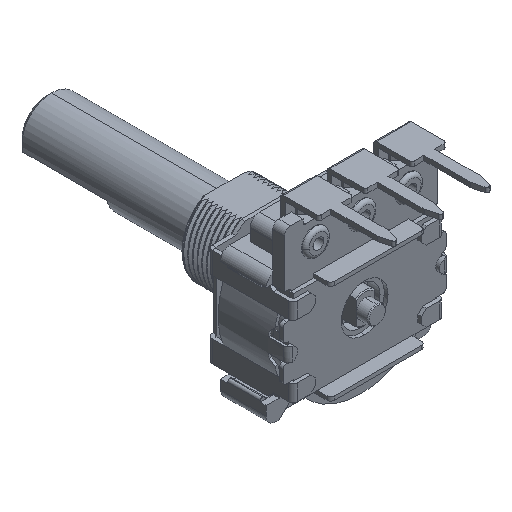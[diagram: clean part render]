
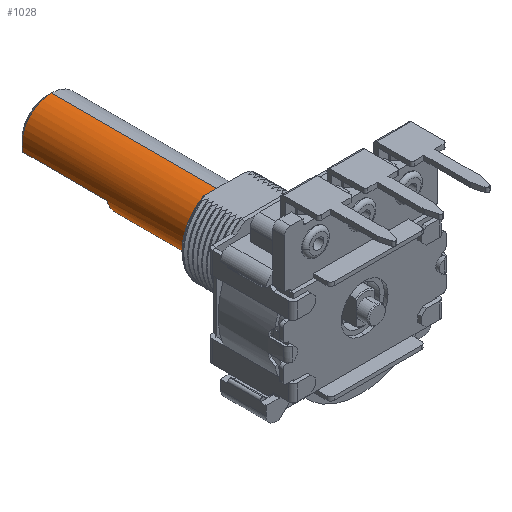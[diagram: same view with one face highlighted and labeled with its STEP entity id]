
A CAD part, isometric view. The second image highlights one B-rep face of the part: STEP entity #1028.
In plain terms, the highlighted cylindrical face has radius 3.175 mm (diameter 6.35 mm), a partial arc.
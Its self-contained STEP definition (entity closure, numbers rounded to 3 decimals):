
#1028 = ADVANCED_FACE ( 'NONE', ( #29209 ), #6277, .T. ) ;
#1615 = CARTESIAN_POINT ( 'NONE',  ( -3.076, 25.974, -0.787 ) ) ;
#2422 = CIRCLE ( 'NONE', #6647, 3.175 ) ;
#2983 = CARTESIAN_POINT ( 'NONE',  ( 0., 25.974, 0. ) ) ;
#5250 = ORIENTED_EDGE ( 'NONE', *, *, #27455, .F. ) ;
#5563 = CARTESIAN_POINT ( 'NONE',  ( 0., 34.989, 0. ) ) ;
#6028 = ORIENTED_EDGE ( 'NONE', *, *, #21862, .T. ) ;
#6169 = EDGE_CURVE ( 'NONE', #19827, #15441, #18001, .T. ) ;
#6277 = CYLINDRICAL_SURFACE ( 'NONE', #9477, 3.175 ) ;
#6393 = AXIS2_PLACEMENT_3D ( 'NONE', #2983, #10557, #20648 ) ;
#6398 = LINE ( 'NONE', #26538, #15486 ) ;
#6647 = AXIS2_PLACEMENT_3D ( 'NONE', #23392, #30816, #30652 ) ;
#7072 = LINE ( 'NONE', #1615, #30782 ) ;
#8259 = VERTEX_POINT ( 'NONE', #26552 ) ;
#8394 = EDGE_CURVE ( 'NONE', #11968, #22126, #28533, .T. ) ;
#8904 = DIRECTION ( 'NONE',  ( 0., 0., -1. ) ) ;
#9477 = AXIS2_PLACEMENT_3D ( 'NONE', #16329, #20966, #8904 ) ;
#10557 = DIRECTION ( 'NONE',  ( 0., 1., 0. ) ) ;
#10715 = ORIENTED_EDGE ( 'NONE', *, *, #8394, .F. ) ;
#11968 = VERTEX_POINT ( 'NONE', #13759 ) ;
#12755 = VERTEX_POINT ( 'NONE', #14615 ) ;
#13759 = CARTESIAN_POINT ( 'NONE',  ( 0., 34.989, 3.175 ) ) ;
#14496 = DIRECTION ( 'NONE',  ( 0., 1., 0. ) ) ;
#14615 = CARTESIAN_POINT ( 'NONE',  ( -3.076, 34.989, -0.787 ) ) ;
#15441 = VERTEX_POINT ( 'NONE', #28844 ) ;
#15486 = VECTOR ( 'NONE', #26044, 1000. ) ;
#16111 = DIRECTION ( 'NONE',  ( 0., 0., 1. ) ) ;
#16329 = CARTESIAN_POINT ( 'NONE',  ( 0., 0., 0. ) ) ;
#16469 = DIRECTION ( 'NONE',  ( 0., -1., 0. ) ) ;
#16654 = CIRCLE ( 'NONE', #28789, 3.175 ) ;
#17813 = ORIENTED_EDGE ( 'NONE', *, *, #20727, .T. ) ;
#18001 = CIRCLE ( 'NONE', #6393, 3.175 ) ;
#18609 = ORIENTED_EDGE ( 'NONE', *, *, #6169, .F. ) ;
#19699 = ORIENTED_EDGE ( 'NONE', *, *, #20619, .F. ) ;
#19827 = VERTEX_POINT ( 'NONE', #32075 ) ;
#20619 = EDGE_CURVE ( 'NONE', #22126, #8259, #2422, .T. ) ;
#20648 = DIRECTION ( 'NONE',  ( 0., 0., 1. ) ) ;
#20727 = EDGE_CURVE ( 'NONE', #11968, #12755, #16654, .T. ) ;
#20966 = DIRECTION ( 'NONE',  ( 0., -1., 0. ) ) ;
#21862 = EDGE_CURVE ( 'NONE', #19827, #8259, #6398, .T. ) ;
#21931 = CARTESIAN_POINT ( 'NONE',  ( 0., 16.795, 3.175 ) ) ;
#22126 = VERTEX_POINT ( 'NONE', #21931 ) ;
#23392 = CARTESIAN_POINT ( 'NONE',  ( 0., 16.795, 0. ) ) ;
#24684 = EDGE_LOOP ( 'NONE', ( #10715, #17813, #5250, #18609, #6028, #19699 ) ) ;
#26044 = DIRECTION ( 'NONE',  ( 0., -1., 0. ) ) ;
#26538 = CARTESIAN_POINT ( 'NONE',  ( 0., 0., -3.175 ) ) ;
#26552 = CARTESIAN_POINT ( 'NONE',  ( 0., 16.795, -3.175 ) ) ;
#26928 = VECTOR ( 'NONE', #16469, 1000. ) ;
#27455 = EDGE_CURVE ( 'NONE', #15441, #12755, #7072, .T. ) ;
#28496 = DIRECTION ( 'NONE',  ( 0., -1., 0. ) ) ;
#28533 = LINE ( 'NONE', #28860, #26928 ) ;
#28789 = AXIS2_PLACEMENT_3D ( 'NONE', #5563, #28496, #16111 ) ;
#28844 = CARTESIAN_POINT ( 'NONE',  ( -3.076, 25.974, -0.787 ) ) ;
#28860 = CARTESIAN_POINT ( 'NONE',  ( 0., 0., 3.175 ) ) ;
#29209 = FACE_OUTER_BOUND ( 'NONE', #24684, .T. ) ;
#30652 = DIRECTION ( 'NONE',  ( 0., 0., -1. ) ) ;
#30782 = VECTOR ( 'NONE', #14496, 1000. ) ;
#30816 = DIRECTION ( 'NONE',  ( 0., -1., 0. ) ) ;
#32075 = CARTESIAN_POINT ( 'NONE',  ( 0., 25.974, -3.175 ) ) ;
